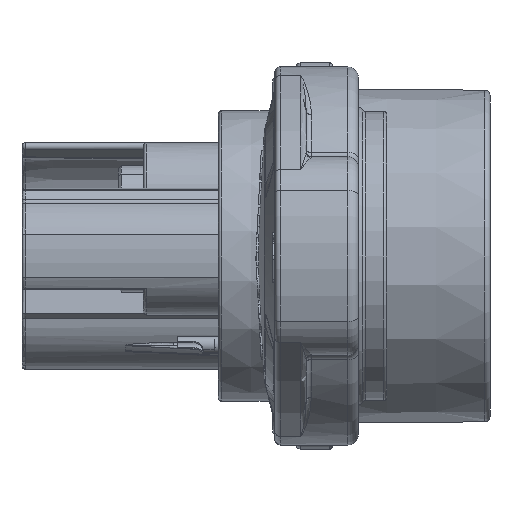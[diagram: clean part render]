
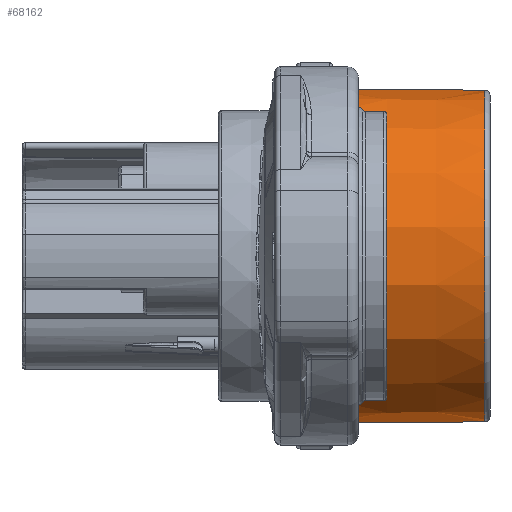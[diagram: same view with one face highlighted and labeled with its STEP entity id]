
A CAD part, front view. The second image highlights one B-rep face of the part: STEP entity #68162.
In plain terms, the highlighted conical face has half-angle 0.5 degrees and reference radius 16 mm.
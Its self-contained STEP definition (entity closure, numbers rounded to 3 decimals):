
#2509 = CARTESIAN_POINT ( 'NONE',  ( -0.496, 0., 0. ) ) ;
#2910 = DIRECTION ( 'NONE',  ( 0., 0., -1. ) ) ;
#6239 = VECTOR ( 'NONE', #71745, 1000. ) ;
#7065 = VECTOR ( 'NONE', #43743, 1000. ) ;
#8083 = VERTEX_POINT ( 'NONE', #67374 ) ;
#8489 = EDGE_CURVE ( 'NONE', #64753, #15609, #64083, .T. ) ;
#8518 = AXIS2_PLACEMENT_3D ( 'NONE', #50058, #50454, #76003 ) ;
#11629 = CIRCLE ( 'NONE', #45876, 15.873 ) ;
#15609 = VERTEX_POINT ( 'NONE', #53959 ) ;
#18596 = CARTESIAN_POINT ( 'NONE',  ( -15.1, 0., -16. ) ) ;
#19951 = ORIENTED_EDGE ( 'NONE', *, *, #8489, .T. ) ;
#21589 = EDGE_CURVE ( 'NONE', #48893, #8083, #11629, .T. ) ;
#27674 = DIRECTION ( 'NONE',  ( -1., 0., 0. ) ) ;
#28806 = EDGE_LOOP ( 'NONE', ( #63283, #70150, #19951, #74095 ) ) ;
#38883 = EDGE_CURVE ( 'NONE', #48893, #15609, #54919, .T. ) ;
#39922 = CARTESIAN_POINT ( 'NONE',  ( -14.604, 0., 0. ) ) ;
#43743 = DIRECTION ( 'NONE',  ( -1., 0., -0.009 ) ) ;
#45876 = AXIS2_PLACEMENT_3D ( 'NONE', #2509, #27674, #2910 ) ;
#46496 = DIRECTION ( 'NONE',  ( 1., 0., 0. ) ) ;
#47991 = CONICAL_SURFACE ( 'NONE', #8518, 16., 0.009 ) ;
#48893 = VERTEX_POINT ( 'NONE', #55561 ) ;
#50058 = CARTESIAN_POINT ( 'NONE',  ( -15.1, 0., 0. ) ) ;
#50454 = DIRECTION ( 'NONE',  ( -1., 0., 0. ) ) ;
#53959 = CARTESIAN_POINT ( 'NONE',  ( -14.604, 0., -15.996 ) ) ;
#54919 = LINE ( 'NONE', #18596, #7065 ) ;
#55561 = CARTESIAN_POINT ( 'NONE',  ( -0.496, 0., -15.873 ) ) ;
#57499 = AXIS2_PLACEMENT_3D ( 'NONE', #39922, #46496, #58464 ) ;
#58464 = DIRECTION ( 'NONE',  ( 0., 0., 1. ) ) ;
#58574 = LINE ( 'NONE', #58988, #6239 ) ;
#58988 = CARTESIAN_POINT ( 'NONE',  ( -15.1, 0., 16. ) ) ;
#62858 = FACE_OUTER_BOUND ( 'NONE', #28806, .T. ) ;
#63283 = ORIENTED_EDGE ( 'NONE', *, *, #21589, .T. ) ;
#64083 = CIRCLE ( 'NONE', #57499, 15.996 ) ;
#64753 = VERTEX_POINT ( 'NONE', #76021 ) ;
#67374 = CARTESIAN_POINT ( 'NONE',  ( -0.496, 0., 15.873 ) ) ;
#68162 = ADVANCED_FACE ( 'NONE', ( #62858 ), #47991, .T. ) ;
#70150 = ORIENTED_EDGE ( 'NONE', *, *, #80258, .T. ) ;
#71745 = DIRECTION ( 'NONE',  ( -1., 0., 0.009 ) ) ;
#74095 = ORIENTED_EDGE ( 'NONE', *, *, #38883, .F. ) ;
#76003 = DIRECTION ( 'NONE',  ( 0., 0., -1. ) ) ;
#76021 = CARTESIAN_POINT ( 'NONE',  ( -14.604, 0., 15.996 ) ) ;
#80258 = EDGE_CURVE ( 'NONE', #8083, #64753, #58574, .T. ) ;
